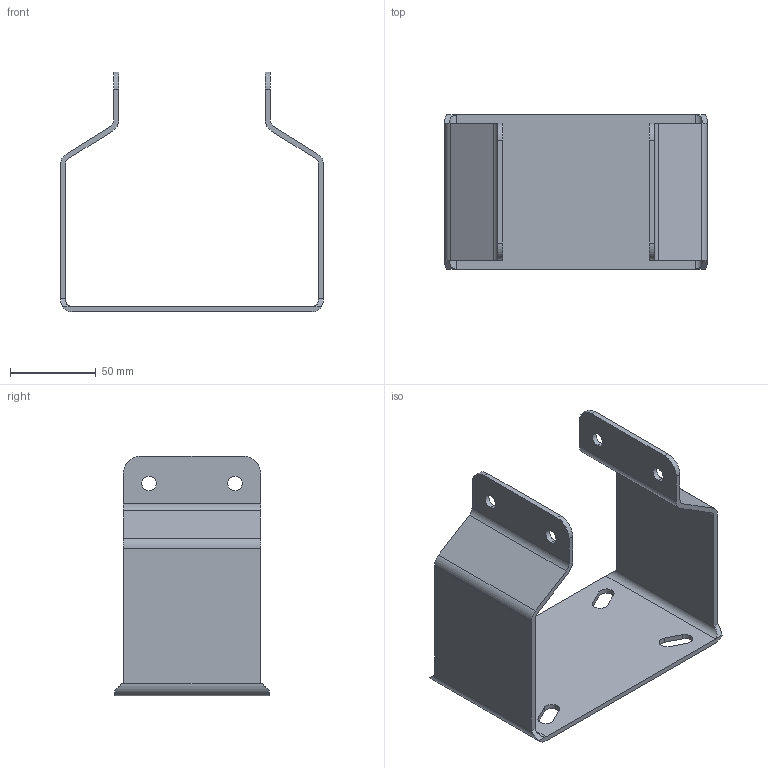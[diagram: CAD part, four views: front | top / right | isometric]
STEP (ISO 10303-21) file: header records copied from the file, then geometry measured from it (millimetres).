
FILE_DESCRIPTION (( 'STEP AP214' ), '1' );
FILE_NAME ('SAHBC 90M.step', '2017-04-05T08:05:50', ( '' ), ( '' ), 'SwSTEP 2.0', 'SolidWorks 2015', '' );
FILE_SCHEMA (( 'AUTOMOTIVE_DESIGN' ));
Length unit declared in the file: millimetre
Products named in the file (1): SAHBC 90M
Bounding box: 153.5 x 90 x 140 mm (x, y, z)
Volume: 110865.6 mm3; surface area: 78022.5 mm2
Topology: 1 solids, 1 shells, 70 faces, 200 edges, 132 vertices
Faces by surface type: cylinder 36, plane 34
Entity records: 2366 total; most frequent: CARTESIAN_POINT 427, DIRECTION 402, ORIENTED_EDGE 400, EDGE_CURVE 200, AXIS2_PLACEMENT_3D 139, VERTEX_POINT 132, LINE 124, VECTOR 124
